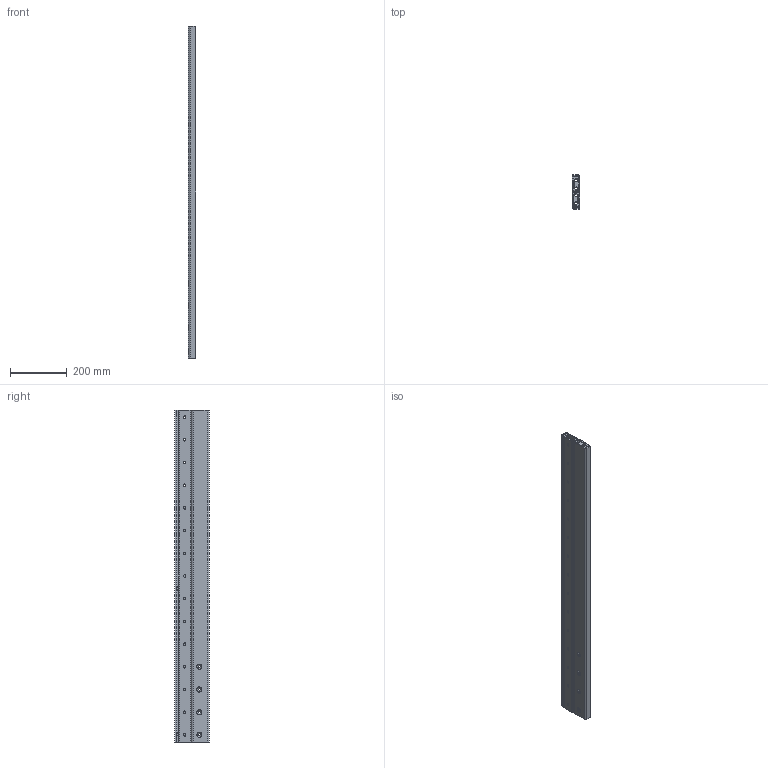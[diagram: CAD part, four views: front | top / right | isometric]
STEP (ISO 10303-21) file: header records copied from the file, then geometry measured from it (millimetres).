
FILE_DESCRIPTION(('STEP AP214'),'1');
FILE_NAME('rail_dss43-1170_00.stp','2017-04-17T04:00:02',('TraceParts'),('TraceParts S.A.'),'Spatial InterOp 3D',' ',' ');
FILE_SCHEMA(('automotive_design'));
Length unit declared in the file: millimetre
Products named in the file (3): rail_dss43-1170_00_1; rail_dss43-1170_00_2; rail_dss43-1170_00_3
Bounding box: 28 x 120 x 1170 mm (x, y, z)
Volume: 2064589.3 mm3; surface area: 835116.3 mm2
Topology: 3 solids, 3 shells, 326 faces, 870 edges, 560 vertices
Faces by surface type: plane 138, cylinder 128, cone 60
Entity records: 10383 total; most frequent: DIRECTION 1860, CARTESIAN_POINT 1759, ORIENTED_EDGE 1740, EDGE_CURVE 870, AXIS2_PLACEMENT_3D 661, VERTEX_POINT 560, LINE 538, VECTOR 538
